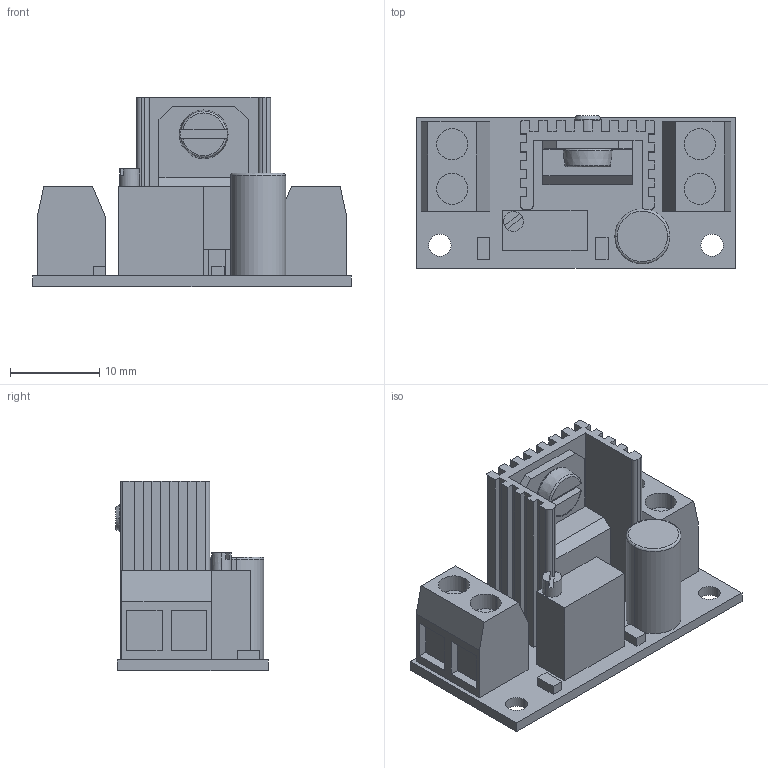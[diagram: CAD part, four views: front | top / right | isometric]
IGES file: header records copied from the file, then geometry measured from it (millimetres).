
Start section: START RECORD GO HERE.
Global section: file name: Spannungsregler_M-SD-LM317.igs; native system: IBM CATIA IGES - CATIA Version 5 Release 19 ; preprocessor: CATIA Version 5 Release 19 ; author: Administrator; organization: M0000815; date: 20230331.174808; units: millimetre
Bounding box: 35.7 x 17.1 x 21.2 mm (x, y, z)
Surface area: 5532.8 mm2 (no closed solid volume)
Topology: 0 solids, 0 shells, 220 faces, 1116 edges, 1116 vertices
Faces by surface type: plane 184, revolution 36
